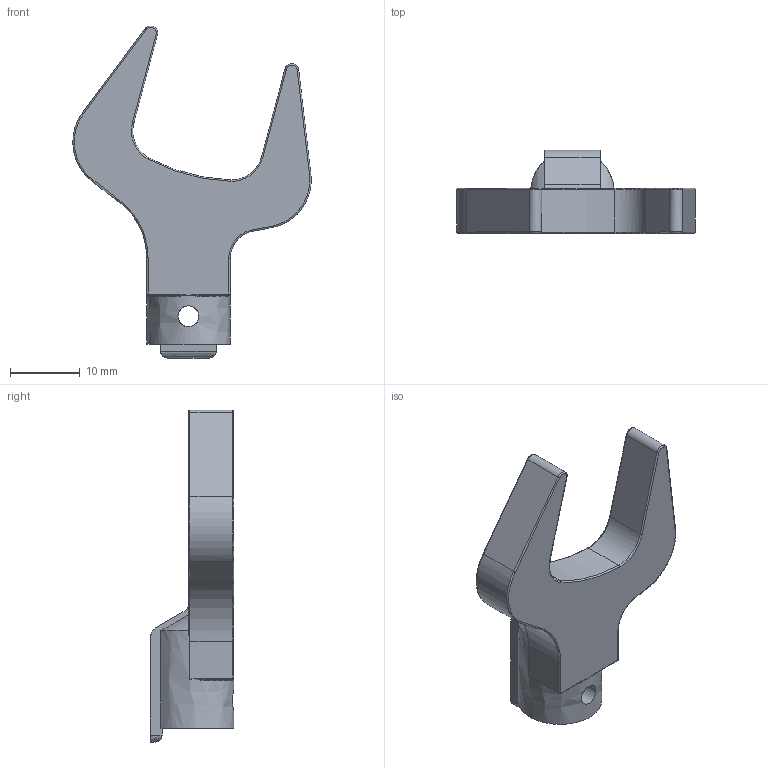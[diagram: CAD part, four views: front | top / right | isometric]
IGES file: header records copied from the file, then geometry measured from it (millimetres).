
Global section: file name: SH8DX19; native system: Autodesk Inventor 2016; preprocessor: unknown; author: Q600; date: 20151029.195858; units: millimetre
Bounding box: 34.28 x 12 x 47.75 mm (x, y, z)
Volume: 4380.5 mm3; surface area: 2739.9 mm2
Topology: 1 solids, 1 shells, 94 faces, 236 edges, 137 vertices
Faces by surface type: bspline 94
